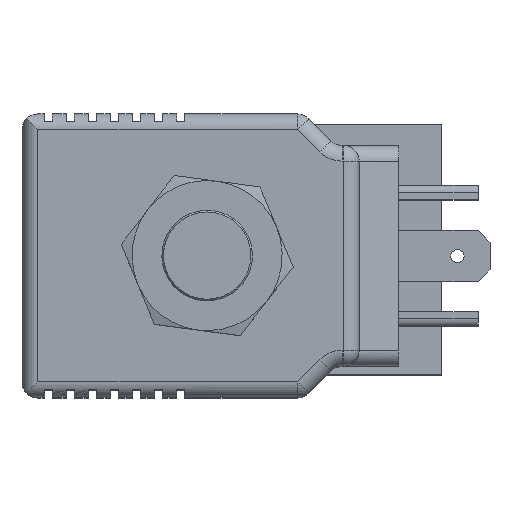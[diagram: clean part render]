
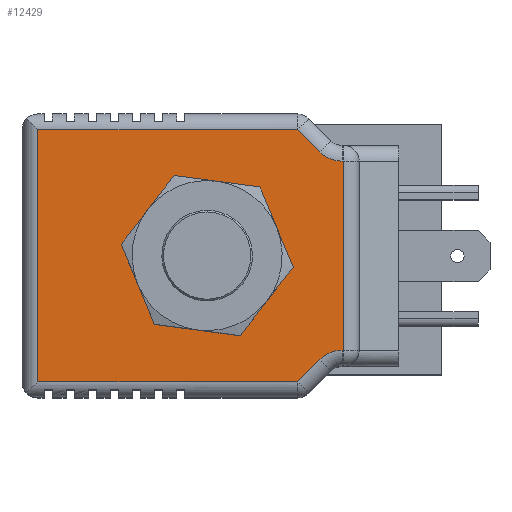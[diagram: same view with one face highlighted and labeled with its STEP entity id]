
A CAD part, top view. The second image highlights one B-rep face of the part: STEP entity #12429.
In plain terms, the highlighted planar face has unit normal (0, 0, 1).
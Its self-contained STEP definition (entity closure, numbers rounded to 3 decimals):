
#874=CIRCLE('',#13098,8.5);
#875=CIRCLE('',#13099,4.);
#876=CIRCLE('',#13100,4.);
#1555=ORIENTED_EDGE('',*,*,#4146,.T.);
#1556=ORIENTED_EDGE('',*,*,#4147,.T.);
#1557=ORIENTED_EDGE('',*,*,#4148,.T.);
#1558=ORIENTED_EDGE('',*,*,#4149,.T.);
#1559=ORIENTED_EDGE('',*,*,#4150,.T.);
#1560=ORIENTED_EDGE('',*,*,#4151,.T.);
#1561=ORIENTED_EDGE('',*,*,#4152,.T.);
#1562=ORIENTED_EDGE('',*,*,#4153,.T.);
#1563=ORIENTED_EDGE('',*,*,#4154,.T.);
#1564=ORIENTED_EDGE('',*,*,#4155,.T.);
#1565=ORIENTED_EDGE('',*,*,#4156,.T.);
#4146=EDGE_CURVE('',#5476,#5476,#874,.T.);
#4147=EDGE_CURVE('',#5477,#5478,#6353,.T.);
#4148=EDGE_CURVE('',#5478,#5479,#6354,.T.);
#4149=EDGE_CURVE('',#5479,#5480,#6355,.T.);
#4150=EDGE_CURVE('',#5480,#5481,#6356,.T.);
#4151=EDGE_CURVE('',#5481,#5482,#875,.F.);
#4152=EDGE_CURVE('',#5482,#5483,#6357,.T.);
#4153=EDGE_CURVE('',#5483,#5484,#6358,.T.);
#4154=EDGE_CURVE('',#5484,#5485,#6359,.T.);
#4155=EDGE_CURVE('',#5485,#5486,#876,.F.);
#4156=EDGE_CURVE('',#5486,#5477,#6360,.T.);
#5476=VERTEX_POINT('',#17365);
#5477=VERTEX_POINT('',#17367);
#5478=VERTEX_POINT('',#17368);
#5479=VERTEX_POINT('',#17370);
#5480=VERTEX_POINT('',#17372);
#5481=VERTEX_POINT('',#17374);
#5482=VERTEX_POINT('',#17376);
#5483=VERTEX_POINT('',#17378);
#5484=VERTEX_POINT('',#17380);
#5485=VERTEX_POINT('',#17382);
#5486=VERTEX_POINT('',#17384);
#6353=LINE('',#17366,#6891);
#6354=LINE('',#17369,#6892);
#6355=LINE('',#17371,#6893);
#6356=LINE('',#17373,#6894);
#6357=LINE('',#17377,#6895);
#6358=LINE('',#17379,#6896);
#6359=LINE('',#17381,#6897);
#6360=LINE('',#17385,#6898);
#6891=VECTOR('',#14254,1000.);
#6892=VECTOR('',#14255,1000.);
#6893=VECTOR('',#14256,1000.);
#6894=VECTOR('',#14257,1000.);
#6895=VECTOR('',#14260,1000.);
#6896=VECTOR('',#14261,1000.);
#6897=VECTOR('',#14262,1000.);
#6898=VECTOR('',#14265,1000.);
#7446=EDGE_LOOP('',(#1555));
#7447=EDGE_LOOP('',(#1556,#1557,#1558,#1559,#1560,#1561,#1562,#1563,#1564,
#1565));
#8171=FACE_BOUND('',#7446,.T.);
#8172=FACE_BOUND('',#7447,.T.);
#8837=PLANE('',#13097);
#12429=ADVANCED_FACE('',(#8171,#8172),#8837,.T.);
#13097=AXIS2_PLACEMENT_3D('',#17363,#14250,#14251);
#13098=AXIS2_PLACEMENT_3D('',#17364,#14252,#14253);
#13099=AXIS2_PLACEMENT_3D('',#17375,#14258,#14259);
#13100=AXIS2_PLACEMENT_3D('',#17383,#14263,#14264);
#14250=DIRECTION('',(0.,0.,1.));
#14251=DIRECTION('',(1.,0.,0.));
#14252=DIRECTION('',(0.,0.,-1.));
#14253=DIRECTION('',(0.,-1.,0.));
#14254=DIRECTION('',(-1.,0.,0.));
#14255=DIRECTION('',(0.,-1.,0.));
#14256=DIRECTION('',(1.,0.,0.));
#14257=DIRECTION('',(0.707,0.707,0.));
#14258=DIRECTION('',(0.,0.,1.));
#14259=DIRECTION('',(1.,0.,0.));
#14260=DIRECTION('',(1.,0.,0.));
#14261=DIRECTION('',(0.,1.,0.));
#14262=DIRECTION('',(-1.,0.,0.));
#14263=DIRECTION('',(0.,0.,1.));
#14264=DIRECTION('',(1.,0.,0.));
#14265=DIRECTION('',(-0.707,0.707,0.));
#17363=CARTESIAN_POINT('',(-16.486,16.,38.5));
#17364=CARTESIAN_POINT('',(5.014,0.,38.5));
#17365=CARTESIAN_POINT('',(5.014,-8.5,38.5));
#17366=CARTESIAN_POINT('',(2.17,16.,38.5));
#17367=CARTESIAN_POINT('',(16.486,16.,38.5));
#17368=CARTESIAN_POINT('',(-16.486,16.,38.5));
#17369=CARTESIAN_POINT('',(-16.486,-16.,38.5));
#17370=CARTESIAN_POINT('',(-16.486,-16.,38.5));
#17371=CARTESIAN_POINT('',(16.486,-16.,38.5));
#17372=CARTESIAN_POINT('',(16.486,-16.,38.5));
#17373=CARTESIAN_POINT('',(19.314,-13.172,38.5));
#17374=CARTESIAN_POINT('',(19.314,-13.172,38.5));
#17375=CARTESIAN_POINT('',(22.143,-16.,38.5));
#17376=CARTESIAN_POINT('',(22.143,-12.,38.5));
#17377=CARTESIAN_POINT('',(24.314,-12.,38.5));
#17378=CARTESIAN_POINT('',(22.314,-12.,38.5));
#17379=CARTESIAN_POINT('',(22.314,16.,38.5));
#17380=CARTESIAN_POINT('',(22.314,12.,38.5));
#17381=CARTESIAN_POINT('',(22.143,12.,38.5));
#17382=CARTESIAN_POINT('',(22.143,12.,38.5));
#17383=CARTESIAN_POINT('',(22.143,16.,38.5));
#17384=CARTESIAN_POINT('',(19.314,13.172,38.5));
#17385=CARTESIAN_POINT('',(16.486,16.,38.5));
